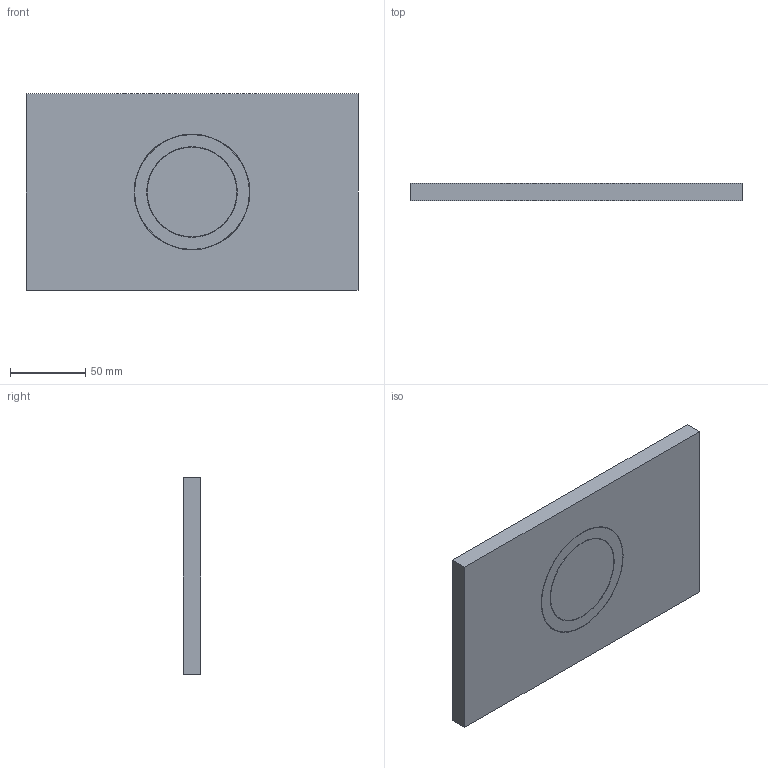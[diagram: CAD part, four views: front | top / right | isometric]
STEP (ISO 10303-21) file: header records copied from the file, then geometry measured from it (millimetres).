
FILE_DESCRIPTION(('STEP AP214'),'1');
FILE_NAME('1105824.stp','2023-03-06T06:37:13',('CAD-PIM'),('TransMagic R12'),'Spatial InterOp 3D',' ',' ');
FILE_SCHEMA(('AUTOMOTIVE_DESIGN { 1 0 10303 214 1 1 1 1 }'));
Length unit declared in the file: millimetre
Products named in the file (1): 1105824
Bounding box: 220 x 11.6 x 130 mm (x, y, z)
Volume: 330883 mm3; surface area: 69489.1 mm2
Topology: 1 solids, 1 shells, 53 faces, 130 edges, 86 vertices
Faces by surface type: bspline 53
Entity records: 3079 total; most frequent: CARTESIAN_POINT 539, ORIENTED_EDGE 260, STYLED_ITEM 246, PRESENTATION_STYLE_ASSIGNMENT 246, COLOUR_RGB 246, DIRECTION 161, EDGE_CURVE 130, CURVE_STYLE 118
